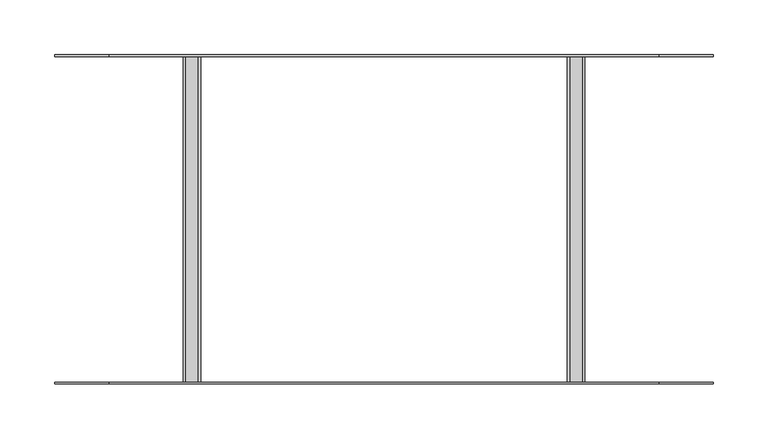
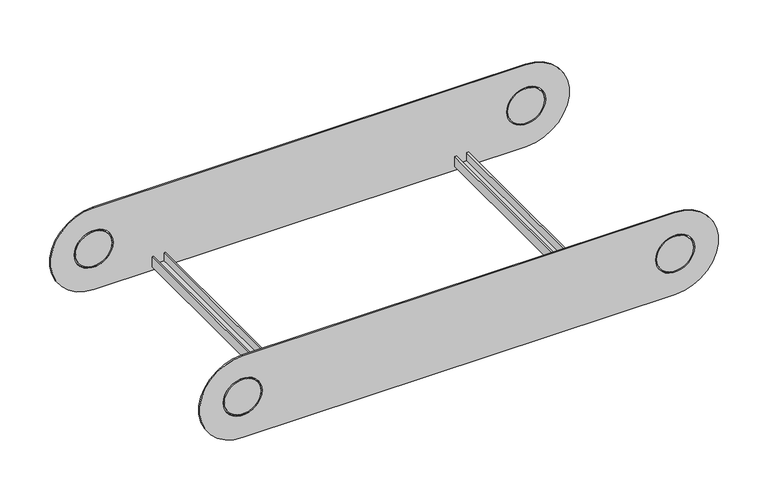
"""IFC4 building model written with IfcOpenShell, lengths in millimetres: cable carrier fitting geometry, BAKS_LDLS_BEND_Adjustable vertical bend element_ELDS : ELDSP_H100."""

from ifc_helpers import new_model, si_unit, point, frame, frame_2d, origin, origin_2d, place, context, project, spatial, polyline, circle_curve, trimmed, segment, composite_curve, outline, extrude, source, transform, mapped, element, save


def cable_carrier_fitting_f33f8219(model_context):
    return source(origin(), model_context, "Body", "SweptSolid", [
        extrude(outline(composite_curve([segment(polyline([(50.0, 500.0), (50.0, 0.0)]), True, "CONTINUOUS"), segment(trimmed(circle_curve(origin_2d(), 50.0), [point((50.0, 0.0))], [point((-50.0, 0.0))], False, "CARTESIAN"), True, "CONTINUOUS"), segment(polyline([(-50.0, 0.0), (-50.0, 500.0)]), True, "CONTINUOUS"), segment(trimmed(circle_curve(frame_2d((0.0, 500.0)), 50.0), [point((-50.0, 500.0))], [point((50.0, 500.0))], False, "CARTESIAN"), True, "CONTINUOUS")], self_intersect=False), holes=[composite_curve([segment(trimmed(circle_curve(origin_2d(), 22.5), [point((0.0, -22.5))], [point((0.0, 22.5))], True, "CARTESIAN"), True, "CONTINUOUS"), segment(trimmed(circle_curve(origin_2d(), 22.5), [point((0.0, 22.5))], [point((0.0, -22.5))], True, "CARTESIAN"), True, "CONTINUOUS")], self_intersect=False), composite_curve([segment(trimmed(circle_curve(frame_2d((0.0, 500.0)), 22.5), [point((0.0, 477.5))], [point((0.0, 522.5))], True, "CARTESIAN"), True, "CONTINUOUS"), segment(trimmed(circle_curve(frame_2d((0.0, 500.0)), 22.5), [point((0.0, 522.5))], [point((0.0, 477.5))], True, "CARTESIAN"), True, "CONTINUOUS")], self_intersect=False)]), frame((0.0, 148.5, 0.0), z_axis=(0.0, 1.0, 0.0), x_axis=(0.0, 0.0, 1.0)), (0.0, 0.0, 1.0), 1.5),
        extrude(outline(composite_curve([segment(trimmed(circle_curve(origin_2d(), 21.0), [point((0.0, -21.0))], [point((0.0, 21.0))], False, "CARTESIAN"), True, "CONTINUOUS"), segment(trimmed(circle_curve(origin_2d(), 21.0), [point((0.0, 21.0))], [point((0.0, -21.0))], False, "CARTESIAN"), True, "CONTINUOUS")], self_intersect=False)), frame((0.0, 148.5, 0.0), z_axis=(0.0, 1.0, 0.0), x_axis=(0.0, 0.0, 1.0)), (0.0, 0.0, 1.0), 1.5),
        extrude(outline(composite_curve([segment(trimmed(circle_curve(frame_2d((0.0, 500.0)), 21.0), [point((0.0, 479.0))], [point((0.0, 521.0))], False, "CARTESIAN"), True, "CONTINUOUS"), segment(trimmed(circle_curve(frame_2d((0.0, 500.0)), 21.0), [point((0.0, 521.0))], [point((0.0, 479.0))], False, "CARTESIAN"), True, "CONTINUOUS")], self_intersect=False)), frame((0.0, 148.5, 0.0), z_axis=(0.0, 1.0, 0.0), x_axis=(0.0, 0.0, 1.0)), (0.0, 0.0, 1.0), 1.5),
        extrude(outline(composite_curve([segment(polyline([(50.0, 500.0), (50.0, 0.0)]), True, "CONTINUOUS"), segment(trimmed(circle_curve(origin_2d(), 50.0), [point((50.0, 0.0))], [point((-50.0, 0.0))], False, "CARTESIAN"), True, "CONTINUOUS"), segment(polyline([(-50.0, 0.0), (-50.0, 500.0)]), True, "CONTINUOUS"), segment(trimmed(circle_curve(frame_2d((0.0, 500.0)), 50.0), [point((-50.0, 500.0))], [point((50.0, 500.0))], False, "CARTESIAN"), True, "CONTINUOUS")], self_intersect=False), holes=[composite_curve([segment(trimmed(circle_curve(origin_2d(), 22.5), [point((0.0, -22.5))], [point((0.0, 22.5))], True, "CARTESIAN"), True, "CONTINUOUS"), segment(trimmed(circle_curve(origin_2d(), 22.5), [point((0.0, 22.5))], [point((0.0, -22.5))], True, "CARTESIAN"), True, "CONTINUOUS")], self_intersect=False), composite_curve([segment(trimmed(circle_curve(frame_2d((0.0, 500.0)), 22.5), [point((0.0, 477.5))], [point((0.0, 522.5))], True, "CARTESIAN"), True, "CONTINUOUS"), segment(trimmed(circle_curve(frame_2d((0.0, 500.0)), 22.5), [point((0.0, 522.5))], [point((0.0, 477.5))], True, "CARTESIAN"), True, "CONTINUOUS")], self_intersect=False)]), frame((0.0, -150.0, 0.0), z_axis=(0.0, 1.0, 0.0), x_axis=(0.0, 0.0, 1.0)), (0.0, 0.0, 1.0), 1.5),
        extrude(outline(composite_curve([segment(trimmed(circle_curve(origin_2d(), 21.0), [point((0.0, -21.0))], [point((0.0, 21.0))], False, "CARTESIAN"), True, "CONTINUOUS"), segment(trimmed(circle_curve(origin_2d(), 21.0), [point((0.0, 21.0))], [point((0.0, -21.0))], False, "CARTESIAN"), True, "CONTINUOUS")], self_intersect=False)), frame((0.0, -150.0, 0.0), z_axis=(0.0, 1.0, 0.0), x_axis=(0.0, 0.0, 1.0)), (0.0, 0.0, 1.0), 1.5),
        extrude(outline(composite_curve([segment(trimmed(circle_curve(frame_2d((0.0, 500.0)), 21.0), [point((0.0, 479.0))], [point((0.0, 521.0))], False, "CARTESIAN"), True, "CONTINUOUS"), segment(trimmed(circle_curve(frame_2d((0.0, 500.0)), 21.0), [point((0.0, 521.0))], [point((0.0, 479.0))], False, "CARTESIAN"), True, "CONTINUOUS")], self_intersect=False)), frame((0.0, -150.0, 0.0), z_axis=(0.0, 1.0, 0.0), x_axis=(0.0, 0.0, 1.0)), (0.0, 0.0, 1.0), 1.5),
        extrude(outline(polyline([(-45.0, 417.0), (-45.0, 433.0), (-33.0, 433.0), (-33.0, 431.0), (-43.0, 431.0), (-43.0, 419.0), (-33.0, 419.0), (-33.0, 417.0), (-45.0, 417.0)])), frame((0.0, -148.5, 0.0), z_axis=(0.0, 1.0, 0.0), x_axis=(0.0, 0.0, 1.0)), (0.0, 0.0, 1.0), 297.0),
        extrude(outline(polyline([(-45.0, 67.0), (-45.0, 83.0), (-33.0, 83.0), (-33.0, 81.0), (-43.0, 81.0), (-43.0, 69.0), (-33.0, 69.0), (-33.0, 67.0), (-45.0, 67.0)])), frame((0.0, -148.5, 0.0), z_axis=(0.0, 1.0, 0.0), x_axis=(0.0, 0.0, 1.0)), (0.0, 0.0, 1.0), 297.0),
    ])


if __name__ == "__main__":
    model = new_model("IFC4")
    model_context = context("Model", 3, world=origin())
    ifc_project = project(units=[si_unit("LENGTHUNIT", "METRE", prefix="MILLI")], contexts=[model_context])
    site = spatial("IfcSite", under=ifc_project)
    building = spatial("IfcBuilding", under=site)
    placement = place(None, origin())
    cable_carrier_fitting_shape = cable_carrier_fitting_f33f8219(model_context)
    element("IfcCableCarrierFitting", 1, ObjectType="BAKS_LDLS_BEND_Adjustable vertical bend element_ELDS : ELDSP_H100", at=placement, inside=building, context=model_context, shape_type="MappedRepresentation", body=[
        mapped(cable_carrier_fitting_shape, transform((0.0, 0.0, 0.0), x_axis=(1.0, 0.0, 0.0), y_axis=(0.0, 1.0, 0.0), z_axis=(0.0, 0.0, 1.0))),
    ])
    save(model, "model.ifc")
